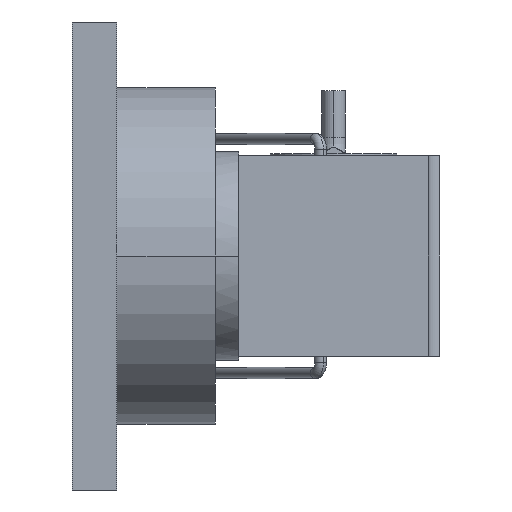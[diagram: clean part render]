
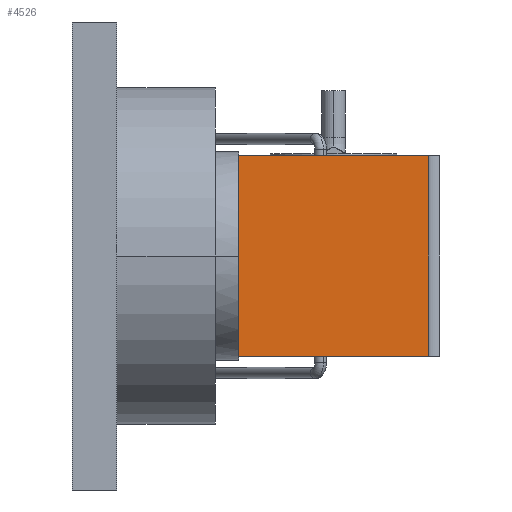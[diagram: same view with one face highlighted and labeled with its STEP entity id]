
A CAD part, left-side view. The second image highlights one B-rep face of the part: STEP entity #4526.
In plain terms, the highlighted planar face has unit normal (-1, 0, 0).
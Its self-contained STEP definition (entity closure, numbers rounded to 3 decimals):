
#848=DIRECTION('',(0.,1.,0.));
#849=VECTOR('',#848,40.488);
#850=CARTESIAN_POINT('',(0.,2.388,21.438));
#851=LINE('',#850,#849);
#992=DIRECTION('',(0.,0.,-1.));
#993=VECTOR('',#992,15.48);
#994=CARTESIAN_POINT('',(0.,42.875,-5.957));
#995=LINE('',#994,#993);
#1077=DIRECTION('',(0.,0.,-1.));
#1078=VECTOR('',#1077,15.48);
#1079=CARTESIAN_POINT('',(0.,42.875,21.438));
#1080=LINE('',#1079,#1078);
#1081=DIRECTION('',(0.,0.,1.));
#1082=VECTOR('',#1081,11.915);
#1083=CARTESIAN_POINT('',(0.,42.875,-5.957));
#1084=LINE('',#1083,#1082);
#1085=DIRECTION('',(0.,0.,-1.));
#1086=VECTOR('',#1085,42.875);
#1087=CARTESIAN_POINT('',(0.,2.388,21.438));
#1088=LINE('',#1087,#1086);
#1089=DIRECTION('',(0.,1.,0.));
#1090=VECTOR('',#1089,40.488);
#1091=CARTESIAN_POINT('',(0.,2.388,-21.438));
#1092=LINE('',#1091,#1090);
#2663=CARTESIAN_POINT('',(0.,2.388,-21.438));
#2665=VERTEX_POINT('',#2663);
#2672=CARTESIAN_POINT('',(0.,42.875,-21.438));
#2673=VERTEX_POINT('',#2672);
#2692=CARTESIAN_POINT('',(0.,2.388,21.438));
#2693=VERTEX_POINT('',#2692);
#2694=CARTESIAN_POINT('',(0.,42.875,21.438));
#2695=VERTEX_POINT('',#2694);
#3113=CARTESIAN_POINT('',(0.,42.875,-5.957));
#3114=VERTEX_POINT('',#3113);
#3117=CARTESIAN_POINT('',(0.,42.875,5.957));
#3118=VERTEX_POINT('',#3117);
#4511=CARTESIAN_POINT('',(0.,42.875,-21.438));
#4512=DIRECTION('',(-1.,0.,0.));
#4513=DIRECTION('',(0.,-1.,0.));
#4514=AXIS2_PLACEMENT_3D('',#4511,#4512,#4513);
#4515=PLANE('',#4514);
#4517=ORIENTED_EDGE('',*,*,#4516,.T.);
#4518=ORIENTED_EDGE('',*,*,#4506,.F.);
#4519=ORIENTED_EDGE('',*,*,#4280,.F.);
#4521=ORIENTED_EDGE('',*,*,#4520,.T.);
#4522=ORIENTED_EDGE('',*,*,#4366,.T.);
#4523=ORIENTED_EDGE('',*,*,#4399,.F.);
#4524=EDGE_LOOP('',(#4517,#4518,#4519,#4521,#4522,#4523));
#4525=FACE_OUTER_BOUND('',#4524,.F.);
#4526=ADVANCED_FACE('',(#4525),#4515,.T.);
#4280=EDGE_CURVE('',#2693,#2695,#851,.T.);
#4366=EDGE_CURVE('',#2665,#2673,#1092,.T.);
#4399=EDGE_CURVE('',#3114,#2673,#995,.T.);
#4506=EDGE_CURVE('',#2695,#3118,#1080,.T.);
#4516=EDGE_CURVE('',#3114,#3118,#1084,.T.);
#4520=EDGE_CURVE('',#2693,#2665,#1088,.T.);
